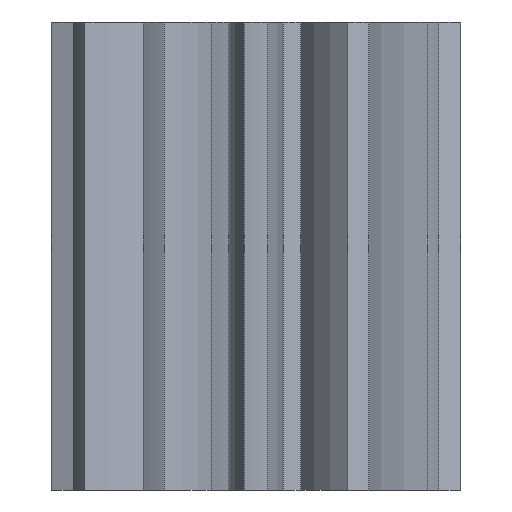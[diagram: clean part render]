
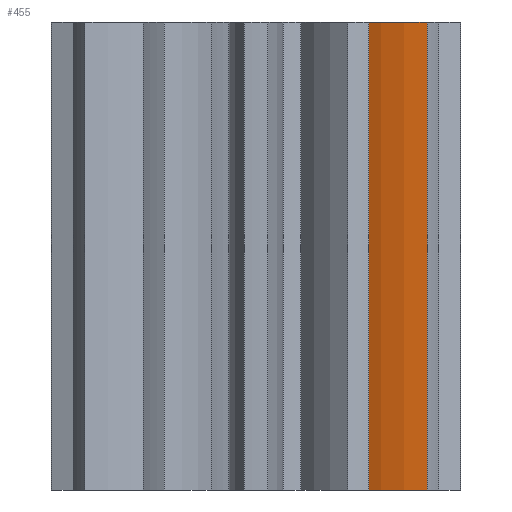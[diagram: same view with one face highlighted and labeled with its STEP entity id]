
A CAD part, front view. The second image highlights one B-rep face of the part: STEP entity #455.
In plain terms, the highlighted cylindrical face has radius 4.044 mm (diameter 8.087 mm), a partial arc.
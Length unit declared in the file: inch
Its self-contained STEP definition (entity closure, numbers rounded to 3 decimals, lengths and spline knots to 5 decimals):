
#414=CARTESIAN_POINT('',(0.19352,0.03863,0.0));
#415=DIRECTION('',(0.0,0.0,-1.0));
#416=DIRECTION('',(-0.515,-0.857,0.0));
#417=AXIS2_PLACEMENT_3D('',#414,#415,#416);
#418=CYLINDRICAL_SURFACE('',#417,0.1592);
#419=CARTESIAN_POINT('',(0.11161,-0.09788,-0.5));
#420=VERTEX_POINT('',#419);
#421=CARTESIAN_POINT('',(0.18276,-0.12021,-0.5));
#422=VERTEX_POINT('',#421);
#423=CARTESIAN_POINT('',(0.19352,0.03863,-0.5));
#424=DIRECTION('',(0.0,0.0,1.));
#425=DIRECTION('',(-0.515,-0.857,0.0));
#426=AXIS2_PLACEMENT_3D('',#423,#424,#425);
#427=CIRCLE('',#426,0.1592);
#428=EDGE_CURVE('',#420,#422,#427,.T.);
#429=ORIENTED_EDGE('',*,*,#428,.T.);
#430=CARTESIAN_POINT('',(0.18276,-0.12021,0.0));
#431=VERTEX_POINT('',#430);
#432=CARTESIAN_POINT('',(0.18276,-0.12021,0.0));
#433=DIRECTION('',(0.0,0.0,-1.0));
#434=VECTOR('',#433,0.5);
#435=LINE('',#432,#434);
#436=EDGE_CURVE('',#431,#422,#435,.T.);
#437=ORIENTED_EDGE('',*,*,#436,.F.);
#438=CARTESIAN_POINT('',(0.11161,-0.09788,0.0));
#439=VERTEX_POINT('',#438);
#440=CARTESIAN_POINT('',(0.19352,0.03863,0.0));
#441=DIRECTION('',(0.0,0.0,1.));
#442=DIRECTION('',(-0.515,-0.857,0.0));
#443=AXIS2_PLACEMENT_3D('',#440,#441,#442);
#444=CIRCLE('',#443,0.1592);
#445=EDGE_CURVE('',#439,#431,#444,.T.);
#446=ORIENTED_EDGE('',*,*,#445,.F.);
#447=CARTESIAN_POINT('',(0.11161,-0.09788,-0.5));
#448=DIRECTION('',(0.0,0.0,1.0));
#449=VECTOR('',#448,0.5);
#450=LINE('',#447,#449);
#451=EDGE_CURVE('',#420,#439,#450,.T.);
#452=ORIENTED_EDGE('',*,*,#451,.F.);
#453=EDGE_LOOP('',(#429,#437,#446,#452));
#454=FACE_OUTER_BOUND('',#453,.T.);
#455=ADVANCED_FACE('',(#454),#418,.T.);
